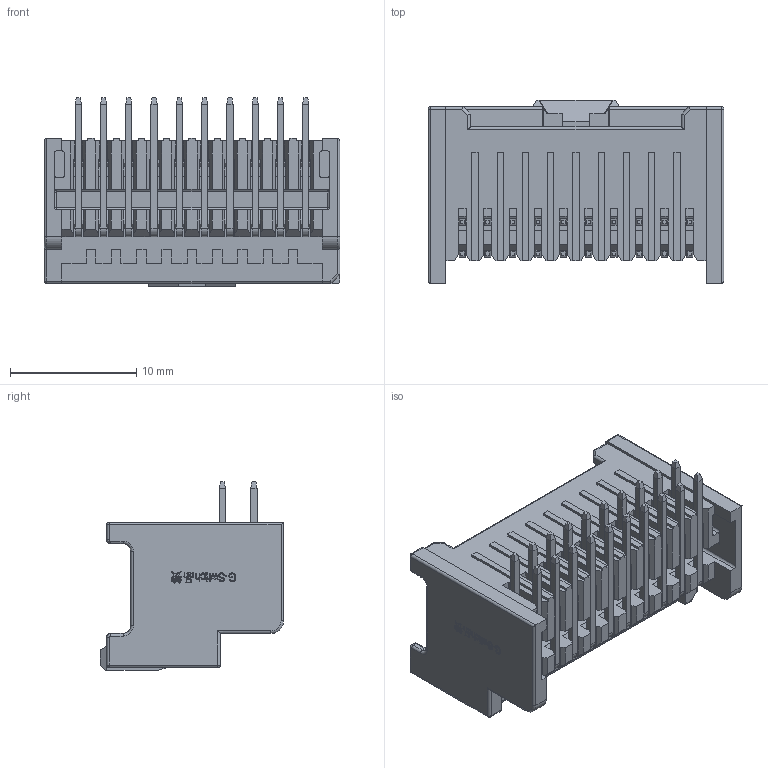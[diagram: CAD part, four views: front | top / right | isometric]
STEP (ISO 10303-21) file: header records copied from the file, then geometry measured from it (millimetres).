
FILE_DESCRIPTION (( 'STEP AP203' ), '1' );
FILE_NAME ('GT-A2031WRD-220WBT01.STEP', '2025-12-28T06:06:12', ( '' ), ( '' ), 'SwSTEP 2.0', 'SolidWorks 2020', '' );
FILE_SCHEMA (( 'CONFIG_CONTROL_DESIGN' ));
Length unit declared in the file: millimetre
Products named in the file (1): GT-A2031WRD-220WBT01
Bounding box: 23.4 x 14.5 x 14.9 mm (x, y, z)
Volume: 1264.4 mm3; surface area: 2974.7 mm2
Topology: 1 solids, 1 shells, 1496 faces, 4083 edges, 2576 vertices
Faces by surface type: plane 1222, cylinder 156, bspline 89, torus 14, sphere 11, cone 4
Entity records: 50337 total; most frequent: CARTESIAN_POINT 13328, ORIENTED_EDGE 8102, DIRECTION 6866, EDGE_CURVE 4051, LINE 3536, VECTOR 3536, VERTEX_POINT 2576, AXIS2_PLACEMENT_3D 1665
